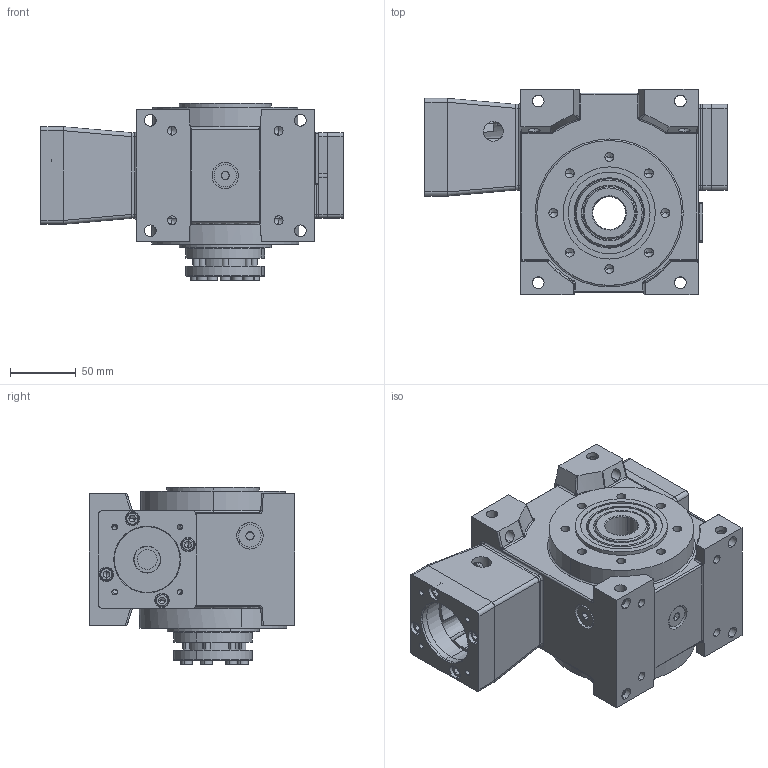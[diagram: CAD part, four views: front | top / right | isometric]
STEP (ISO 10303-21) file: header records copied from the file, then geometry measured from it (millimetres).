
FILE_DESCRIPTION (( 'STEP AP203' ), '1' );
FILE_NAME ('EDB50-35-P3-BM F70 50.STEP', '2022-01-07T09:29:57', ( '' ), ( '' ), 'SwSTEP 2.0', 'SolidWorks 2021', '' );
FILE_SCHEMA (( 'CONFIG_CONTROL_DESIGN' ));
Length unit declared in the file: millimetre
Products named in the file (1): EDB50-35-P3-BM F70 50
Bounding box: 229.5 x 156 x 135 mm (x, y, z)
Volume: 2237490.7 mm3; surface area: 326750.7 mm2
Topology: 38 solids, 41 shells, 2130 faces, 5760 edges, 3597 vertices
Faces by surface type: plane 768, cylinder 619, cone 352, torus 297, bspline 59, sphere 35
Entity records: 73597 total; most frequent: CARTESIAN_POINT 21361, ORIENTED_EDGE 11136, DIRECTION 10826, EDGE_CURVE 5568, AXIS2_PLACEMENT_3D 4404, VERTEX_POINT 3533, EDGE_LOOP 2473, CIRCLE 2332
